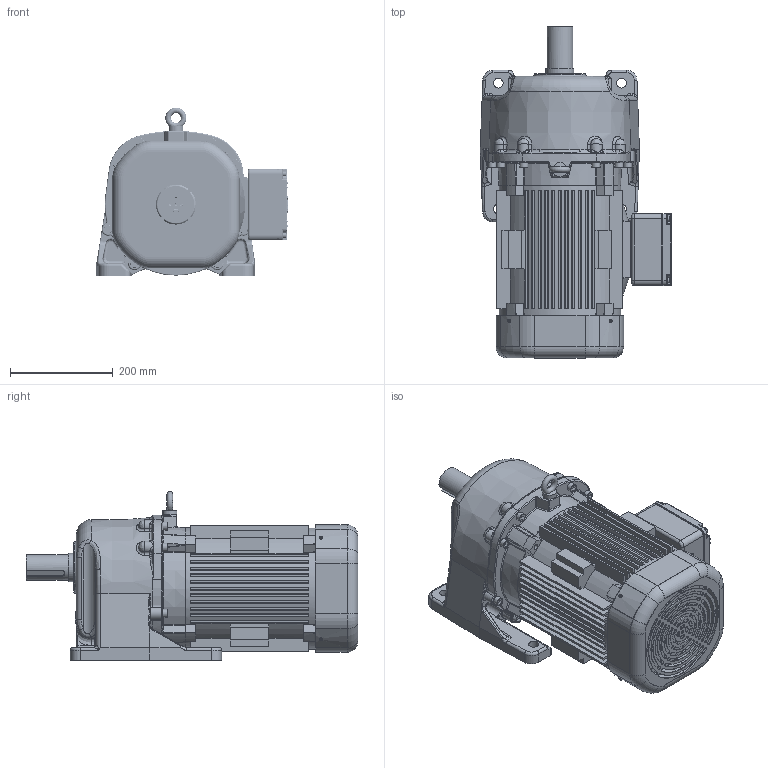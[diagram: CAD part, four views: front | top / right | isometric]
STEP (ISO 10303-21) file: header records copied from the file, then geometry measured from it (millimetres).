
FILE_DESCRIPTION(/* description */ (''),/* implementation_level */ '2;1');
FILE_NAME(/* name */ 'Z:\동력 3D 파일\PML181_5.5kW_3D.stp',/* time_stamp */ '2021-12-01T15:22:15+09:00',/* author */ ('jaebok'),/* organization */ (''),/* preprocessor_version */ 'ST-DEVELOPER v18.1',/* originating_system */ 'Autodesk Inventor 2022',/* authorisation */ '');
FILE_SCHEMA (('AUTOMOTIVE_DESIGN { 1 0 10303 214 3 1 1 }'));
Products named in the file (1): 부품24
Bounding box: 372.9 x 646.5 x 328.97 mm (x, y, z)
Volume: 9327265.9 mm3; surface area: 1985851.7 mm2
Topology: 2 solids, 29 shells, 4318 faces, 10876 edges, 6596 vertices
Faces by surface type: plane 1333, bspline 1323, cylinder 907, torus 418, cone 186, sphere 151
Full cylindrical faces by diameter (mm): 4.134 x4, 4.917 x9, 5 x16, 6 x9, 6.5 x8, 6.647 x5, 6.8 x4, 7 x4, 8 x8, 8.4 x8, 9.5 x4, 10 x28, 10.2 x1, 11 x8, 12 x2, 13.2 x1, 15 x1, 16 x8, 19 x4, 20 x1, 28 x2, 32 x1, 34 x1, 36 x1, 49.6 x1, 50 x3, 52 x1, 55 x2, 60 x1, 62 x3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
Entity records: 162021 total; most frequent: CARTESIAN_POINT 62274, ORIENTED_EDGE 21314, DIRECTION 17476, EDGE_CURVE 10657, AXIS2_PLACEMENT_3D 6631, VERTEX_POINT 6594, EDGE_LOOP 4647, FACE_OUTER_BOUND 4318
